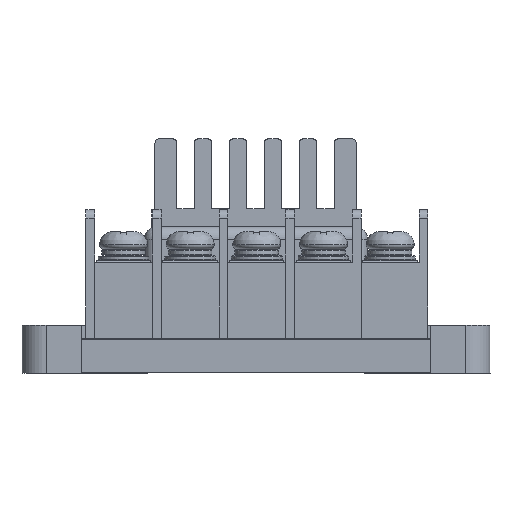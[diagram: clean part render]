
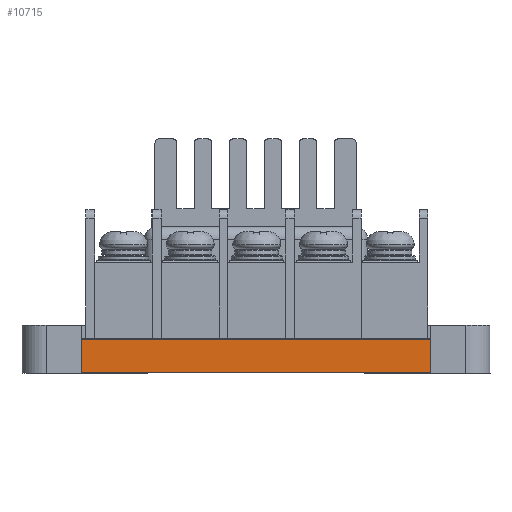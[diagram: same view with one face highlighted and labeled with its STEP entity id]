
A CAD part, left-side view. The second image highlights one B-rep face of the part: STEP entity #10715.
In plain terms, the highlighted planar face has unit normal (-1, 0, 0) as drawn and (0, 1, 0) by its records, which use the part's own axes.
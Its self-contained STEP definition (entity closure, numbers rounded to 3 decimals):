
#797=PLANE($,#11421);
#1253=FACE_OUTER_BOUND($,#1894,.T.);
#1894=EDGE_LOOP($,(#8349,#8350,#8351,#8352));
#2774=LINE($,#16160,#3960);
#2820=LINE($,#16340,#4006);
#2822=LINE($,#16344,#4008);
#2823=LINE($,#16345,#4009);
#3960=VECTOR($,#12968,40.);
#4006=VECTOR($,#13162,3.8);
#4008=VECTOR($,#13166,3.8);
#4009=VECTOR($,#13167,40.);
#5047=VERTEX_POINT($,#16157);
#5048=VERTEX_POINT($,#16159);
#5108=VERTEX_POINT($,#16339);
#5109=VERTEX_POINT($,#16343);
#6233=EDGE_CURVE($,#5048,#5047,#2774,.T.);
#6315=EDGE_CURVE($,#5108,#5048,#2820,.T.);
#6317=EDGE_CURVE($,#5109,#5047,#2822,.T.);
#6318=EDGE_CURVE($,#5109,#5108,#2823,.T.);
#8349=ORIENTED_EDGE($,*,*,#6317,.F.);
#8350=ORIENTED_EDGE($,*,*,#6318,.T.);
#8351=ORIENTED_EDGE($,*,*,#6315,.T.);
#8352=ORIENTED_EDGE($,*,*,#6233,.T.);
#10715=ADVANCED_FACE($,(#1253),#797,.T.);
#11421=AXIS2_PLACEMENT_3D($,#16342,#13164,#13165);
#12968=DIRECTION($,(1.,0.,0.));
#13162=DIRECTION($,(0.,0.,1.));
#13164=DIRECTION('center_axis',(0.,1.,0.));
#13165=DIRECTION('ref_axis',(0.,0.,1.));
#13166=DIRECTION($,(0.,0.,1.));
#13167=DIRECTION($,(-1.,0.,0.));
#16157=CARTESIAN_POINT('',(46.2,95.939,3.8));
#16159=CARTESIAN_POINT('',(6.2,95.939,3.8));
#16160=CARTESIAN_POINT($,(46.2,95.939,3.8));
#16339=CARTESIAN_POINT('',(6.2,95.939,0.));
#16340=CARTESIAN_POINT($,(6.2,95.939,0.));
#16342=CARTESIAN_POINT('Origin',(45.6,95.939,0.));
#16343=CARTESIAN_POINT('',(46.2,95.939,0.));
#16344=CARTESIAN_POINT($,(46.2,95.939,0.));
#16345=CARTESIAN_POINT($,(46.2,95.939,0.));
